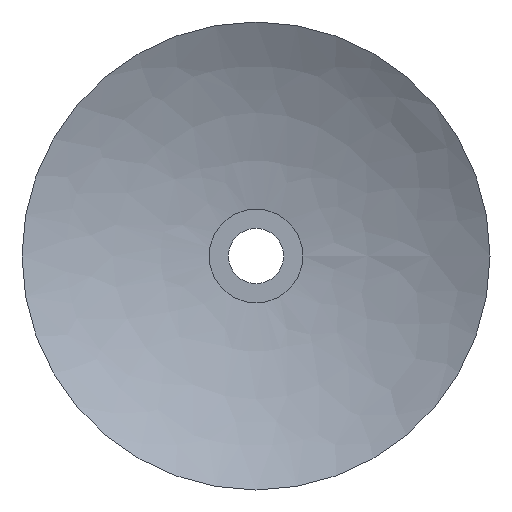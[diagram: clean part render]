
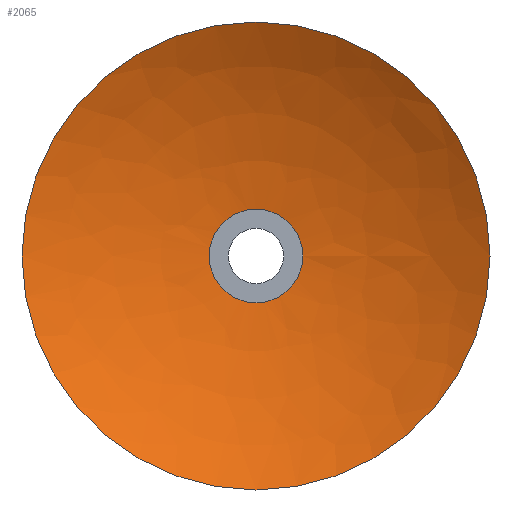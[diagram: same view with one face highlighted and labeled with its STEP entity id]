
A CAD part, front view. The second image highlights one B-rep face of the part: STEP entity #2065.
In plain terms, the highlighted free-form (B-spline) face has degree [2, 2] with [9, 3] control points.
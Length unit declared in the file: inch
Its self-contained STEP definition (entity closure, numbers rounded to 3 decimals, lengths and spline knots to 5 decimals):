
#15 = CARTESIAN_POINT ( 'NONE',  ( 0.42443, 0.21636, 0.3937 ) ) ;
#24 = CARTESIAN_POINT ( 'NONE',  ( 0.6709, 0.29838, 0. ) ) ;
#34 = CARTESIAN_POINT ( 'NONE',  ( 0.17796, 0.29838, -0.24647 ) ) ;
#56 = CARTESIAN_POINT ( 'NONE',  ( 0.6709, 0.29838, 0. ) ) ;
#157 = CARTESIAN_POINT ( 'NONE',  ( 0.34569, 0.31478, -0.07874 ) ) ;
#171 = AXIS2_PLACEMENT_3D ( 'NONE', #1173, #848, #1503 ) ;
#179 = CARTESIAN_POINT ( 'NONE',  ( 0.34569, 0.31478, 0.07874 ) ) ;
#184 = CARTESIAN_POINT ( 'NONE',  ( 0.42443, 0.29838, 0.24647 ) ) ;
#188 = CARTESIAN_POINT ( 'NONE',  ( 0.81813, 0.21636, -0.3937 ) ) ;
#195 = CIRCLE ( 'NONE', #249, 0.07874 ) ;
#214 = CARTESIAN_POINT ( 'NONE',  ( 0.50317, 0.31478, -0.07874 ) ) ;
#249 = AXIS2_PLACEMENT_3D ( 'NONE', #1987, #529, #1179 ) ;
#291 = VERTEX_POINT ( 'NONE', #1193 ) ;
#336 = CARTESIAN_POINT ( 'NONE',  ( 0.81813, 0.21636, 0. ) ) ;
#350 = CARTESIAN_POINT ( 'NONE',  ( 0.03073, 0.21636, 0.3937 ) ) ;
#359 = CARTESIAN_POINT ( 'NONE',  ( 0.03073, 0.21636, -0.3937 ) ) ;
#376 = CARTESIAN_POINT ( 'NONE',  ( 0.50317, 0.31478, 0. ) ) ;
#387 = CARTESIAN_POINT ( 'NONE',  ( 0.42443, 0.21636, -0.3937 ) ) ;
#508 = CARTESIAN_POINT ( 'NONE',  ( 0.50317, 0.31478, 0. ) ) ;
#515 = CARTESIAN_POINT ( 'NONE',  ( 0.34569, 0.31478, 0. ) ) ;
#529 = DIRECTION ( 'NONE',  ( 0., -1., 0. ) ) ;
#605 = EDGE_CURVE ( 'NONE', #725, #725, #1789, .T. ) ;
#606 = EDGE_LOOP ( 'NONE', ( #1332 ) ) ;
#634 = EDGE_CURVE ( 'NONE', #291, #291, #195, .T. ) ;
#661 = CARTESIAN_POINT ( 'NONE',  ( 0.50317, 0.31478, 0.07874 ) ) ;
#725 = VERTEX_POINT ( 'NONE', #1008 ) ;
#822 = CARTESIAN_POINT ( 'NONE',  ( 0.42443, 0.31478, 0.07874 ) ) ;
#848 = DIRECTION ( 'NONE',  ( 0., -1., 0. ) ) ;
#1008 = CARTESIAN_POINT ( 'NONE',  ( 0.81813, 0.21636, 0. ) ) ;
#1130 = CARTESIAN_POINT ( 'NONE',  ( 0.03073, 0.21636, 0. ) ) ;
#1164 = CARTESIAN_POINT ( 'NONE',  ( 0.42443, 0.29838, -0.24647 ) ) ;
#1173 = CARTESIAN_POINT ( 'NONE',  ( 0.42443, 0.21636, 0. ) ) ;
#1179 = DIRECTION ( 'NONE',  ( 1., 0., 0. ) ) ;
#1193 = CARTESIAN_POINT ( 'NONE',  ( 0.50317, 0.31478, 0. ) ) ;
#1198 = ORIENTED_EDGE ( 'NONE', *, *, #605, .T. ) ;
#1332 = ORIENTED_EDGE ( 'NONE', *, *, #634, .F. ) ;
#1367 = FACE_OUTER_BOUND ( 'NONE', #1854, .T. ) ;
#1477 = CARTESIAN_POINT ( 'NONE',  ( 0.6709, 0.29838, 0.24647 ) ) ;
#1491 = CARTESIAN_POINT ( 'NONE',  ( 0.17796, 0.29838, 0.24647 ) ) ;
#1503 = DIRECTION ( 'NONE',  ( 1., 0., 0. ) ) ;
#1521 = CARTESIAN_POINT ( 'NONE',  ( 0.81813, 0.21636, 0. ) ) ;
#1647 = CARTESIAN_POINT ( 'NONE',  ( 0.17796, 0.29838, 0. ) ) ;
#1789 = CIRCLE ( 'NONE', #171, 0.3937 ) ;
#1804 = CARTESIAN_POINT ( 'NONE',  ( 0.81813, 0.21636, 0.3937 ) ) ;
#1816 = CARTESIAN_POINT ( 'NONE',  ( 0.42443, 0.31478, -0.07874 ) ) ;
#1854 = EDGE_LOOP ( 'NONE', ( #1198 ) ) ;
#1917 = FACE_OUTER_BOUND ( 'NONE', #606, .T. ) ;
#1987 = CARTESIAN_POINT ( 'NONE',  ( 0.42443, 0.31478, 0. ) ) ;
#2007 = CARTESIAN_POINT ( 'NONE',  ( 0.6709, 0.29838, -0.24647 ) ) ;
#2036 =( BOUNDED_SURFACE ( )  B_SPLINE_SURFACE ( 2, 2, ( 
 ( #508, #24, #336 ),
 ( #661, #1477, #1804 ),
 ( #822, #184, #15 ),
 ( #179, #1491, #350 ),
 ( #515, #1647, #1130 ),
 ( #157, #34, #359 ),
 ( #1816, #1164, #387 ),
 ( #214, #2007, #188 ),
 ( #376, #56, #1521 ) ),
 .UNSPECIFIED., .T., .F., .F. ) 
 B_SPLINE_SURFACE_WITH_KNOTS ( ( 3, 2, 2, 2, 3 ),
 ( 3, 3 ),
 ( 0., 0.25, 0.5, 0.75, 1. ),
 ( 0., 1. ),
 .UNSPECIFIED. ) 
 GEOMETRIC_REPRESENTATION_ITEM ( )  RATIONAL_B_SPLINE_SURFACE ( (
 ( 1., 0.979, 1.),
 ( 0.707, 0.692, 0.707),
 ( 1., 0.979, 1.),
 ( 0.707, 0.692, 0.707),
 ( 1., 0.979, 1.),
 ( 0.707, 0.692, 0.707),
 ( 1., 0.979, 1.),
 ( 0.707, 0.692, 0.707),
 ( 1., 0.979, 1.) ) ) 
 REPRESENTATION_ITEM ( '' )  SURFACE ( )  );
#2065 = ADVANCED_FACE ( 'NONE', ( #1917, #1367 ), #2036, .F. ) ;
